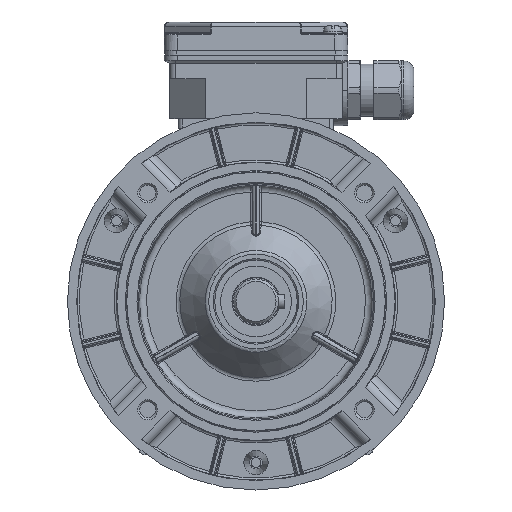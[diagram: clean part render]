
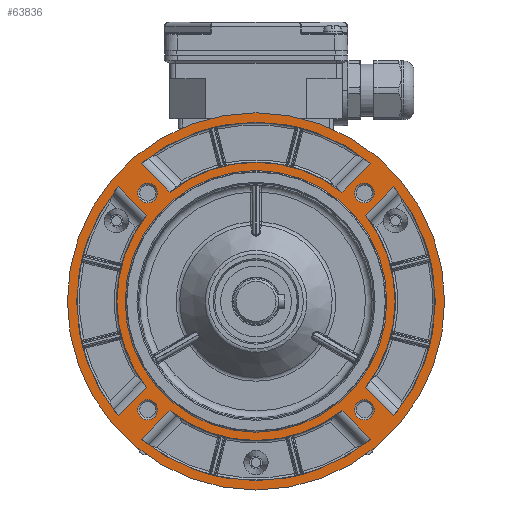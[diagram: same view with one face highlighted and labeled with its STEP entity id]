
A CAD part, left-side view. The second image highlights one B-rep face of the part: STEP entity #63836.
In plain terms, the highlighted planar face has unit normal (-1, 0, 0).
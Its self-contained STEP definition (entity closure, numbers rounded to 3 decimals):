
#5347=LINE('',#95270,#8529);
#5348=LINE('',#95279,#8530);
#5349=LINE('',#95298,#8531);
#5350=LINE('',#95307,#8532);
#5351=LINE('',#95314,#8533);
#5352=LINE('',#95333,#8534);
#5354=LINE('',#95721,#8536);
#5355=LINE('',#95732,#8537);
#8529=VECTOR('',#77063,1000.);
#8530=VECTOR('',#77070,1000.);
#8531=VECTOR('',#77077,1000.);
#8532=VECTOR('',#77084,1000.);
#8533=VECTOR('',#77087,1000.);
#8534=VECTOR('',#77094,1000.);
#8536=VECTOR('',#77164,1000.);
#8537=VECTOR('',#77171,1000.);
#17726=ORIENTED_EDGE('',*,*,#27704,.T.);
#17727=ORIENTED_EDGE('',*,*,#27703,.T.);
#17728=ORIENTED_EDGE('',*,*,#27702,.T.);
#17729=ORIENTED_EDGE('',*,*,#27701,.T.);
#17730=ORIENTED_EDGE('',*,*,#27700,.T.);
#17731=ORIENTED_EDGE('',*,*,#27749,.T.);
#17732=ORIENTED_EDGE('',*,*,#27747,.T.);
#17733=ORIENTED_EDGE('',*,*,#27750,.T.);
#17734=ORIENTED_EDGE('',*,*,#27751,.F.);
#17735=ORIENTED_EDGE('',*,*,#27752,.F.);
#17736=ORIENTED_EDGE('',*,*,#27699,.T.);
#17737=ORIENTED_EDGE('',*,*,#27698,.F.);
#17738=ORIENTED_EDGE('',*,*,#27695,.F.);
#17739=ORIENTED_EDGE('',*,*,#27693,.T.);
#17740=ORIENTED_EDGE('',*,*,#27691,.T.);
#17741=ORIENTED_EDGE('',*,*,#27689,.T.);
#17742=ORIENTED_EDGE('',*,*,#27688,.F.);
#17743=ORIENTED_EDGE('',*,*,#27685,.F.);
#17744=ORIENTED_EDGE('',*,*,#27683,.T.);
#17745=ORIENTED_EDGE('',*,*,#27681,.T.);
#17746=ORIENTED_EDGE('',*,*,#27680,.F.);
#17747=ORIENTED_EDGE('',*,*,#27677,.F.);
#27677=EDGE_CURVE('',#33317,#33318,#36572,.T.);
#27680=EDGE_CURVE('',#33318,#33319,#5347,.T.);
#27681=EDGE_CURVE('',#33320,#33319,#36573,.T.);
#27683=EDGE_CURVE('',#33317,#33320,#5348,.T.);
#27685=EDGE_CURVE('',#33321,#33322,#36574,.T.);
#27688=EDGE_CURVE('',#33322,#33323,#5349,.T.);
#27689=EDGE_CURVE('',#33324,#33323,#36575,.T.);
#27691=EDGE_CURVE('',#33321,#33324,#5350,.T.);
#27693=EDGE_CURVE('',#33326,#33325,#5351,.T.);
#27695=EDGE_CURVE('',#33326,#33327,#36576,.T.);
#27698=EDGE_CURVE('',#33327,#33328,#5352,.T.);
#27699=EDGE_CURVE('',#33325,#33328,#36577,.T.);
#27700=EDGE_CURVE('',#33329,#33329,#36578,.F.);
#27701=EDGE_CURVE('',#33330,#33330,#36579,.F.);
#27702=EDGE_CURVE('',#33331,#33331,#36580,.F.);
#27703=EDGE_CURVE('',#33332,#33332,#36581,.F.);
#27704=EDGE_CURVE('',#33333,#33333,#36582,.F.);
#27747=EDGE_CURVE('',#33355,#33354,#5354,.T.);
#27749=EDGE_CURVE('',#33356,#33356,#36597,.T.);
#27750=EDGE_CURVE('',#33354,#33357,#36598,.T.);
#27751=EDGE_CURVE('',#33358,#33357,#5355,.T.);
#27752=EDGE_CURVE('',#33355,#33358,#36599,.T.);
#33317=VERTEX_POINT('',#95257);
#33318=VERTEX_POINT('',#95259);
#33319=VERTEX_POINT('',#95269);
#33320=VERTEX_POINT('',#95273);
#33321=VERTEX_POINT('',#95285);
#33322=VERTEX_POINT('',#95287);
#33323=VERTEX_POINT('',#95297);
#33324=VERTEX_POINT('',#95301);
#33325=VERTEX_POINT('',#95313);
#33326=VERTEX_POINT('',#95315);
#33327=VERTEX_POINT('',#95322);
#33328=VERTEX_POINT('',#95332);
#33329=VERTEX_POINT('',#95338);
#33330=VERTEX_POINT('',#95341);
#33331=VERTEX_POINT('',#95344);
#33332=VERTEX_POINT('',#95347);
#33333=VERTEX_POINT('',#95350);
#33354=VERTEX_POINT('',#95720);
#33355=VERTEX_POINT('',#95722);
#33356=VERTEX_POINT('',#95729);
#33357=VERTEX_POINT('',#95731);
#33358=VERTEX_POINT('',#95733);
#36572=CIRCLE('',#67656,76.);
#36573=CIRCLE('',#67659,59.);
#36574=CIRCLE('',#67662,76.);
#36575=CIRCLE('',#67665,59.);
#36576=CIRCLE('',#67669,76.);
#36577=CIRCLE('',#67672,59.);
#36578=CIRCLE('',#67674,4.2);
#36579=CIRCLE('',#67676,4.2);
#36580=CIRCLE('',#67678,4.2);
#36581=CIRCLE('',#67680,4.2);
#36582=CIRCLE('',#67682,55.5);
#36597=CIRCLE('',#67706,80.);
#36598=CIRCLE('',#67707,59.);
#36599=CIRCLE('',#67708,76.);
#39187=EDGE_LOOP('',(#17726));
#39188=EDGE_LOOP('',(#17727));
#39189=EDGE_LOOP('',(#17728));
#39190=EDGE_LOOP('',(#17729));
#39191=EDGE_LOOP('',(#17730));
#39192=EDGE_LOOP('',(#17731));
#39193=EDGE_LOOP('',(#17732,#17733,#17734,#17735));
#39194=EDGE_LOOP('',(#17736,#17737,#17738,#17739));
#39195=EDGE_LOOP('',(#17740,#17741,#17742,#17743));
#39196=EDGE_LOOP('',(#17744,#17745,#17746,#17747));
#42366=FACE_BOUND('',#39187,.T.);
#42367=FACE_BOUND('',#39188,.T.);
#42368=FACE_BOUND('',#39189,.T.);
#42369=FACE_BOUND('',#39190,.T.);
#42370=FACE_BOUND('',#39191,.T.);
#42371=FACE_BOUND('',#39192,.T.);
#42372=FACE_BOUND('',#39193,.T.);
#42373=FACE_BOUND('',#39194,.T.);
#42374=FACE_BOUND('',#39195,.T.);
#42375=FACE_BOUND('',#39196,.T.);
#44424=PLANE('',#67705);
#63836=ADVANCED_FACE('',(#42366,#42367,#42368,#42369,#42370,#42371,#42372,
#42373,#42374,#42375),#44424,.T.);
#67656=AXIS2_PLACEMENT_3D('',#95258,#77059,#77060);
#67659=AXIS2_PLACEMENT_3D('',#95272,#77066,#77067);
#67662=AXIS2_PLACEMENT_3D('',#95286,#77073,#77074);
#67665=AXIS2_PLACEMENT_3D('',#95300,#77080,#77081);
#67669=AXIS2_PLACEMENT_3D('',#95321,#77090,#77091);
#67672=AXIS2_PLACEMENT_3D('',#95335,#77097,#77098);
#67674=AXIS2_PLACEMENT_3D('',#95337,#77101,#77102);
#67676=AXIS2_PLACEMENT_3D('',#95340,#77105,#77106);
#67678=AXIS2_PLACEMENT_3D('',#95343,#77109,#77110);
#67680=AXIS2_PLACEMENT_3D('',#95346,#77113,#77114);
#67682=AXIS2_PLACEMENT_3D('',#95349,#77117,#77118);
#67705=AXIS2_PLACEMENT_3D('',#95727,#77165,#77166);
#67706=AXIS2_PLACEMENT_3D('',#95728,#77167,#77168);
#67707=AXIS2_PLACEMENT_3D('',#95730,#77169,#77170);
#67708=AXIS2_PLACEMENT_3D('',#95734,#77172,#77173);
#77059=DIRECTION('',(-1.,0.,0.));
#77060=DIRECTION('',(0.,0.,1.));
#77063=DIRECTION('',(0.,-0.707,0.707));
#77066=DIRECTION('',(-1.,0.,0.));
#77067=DIRECTION('',(0.,0.,1.));
#77070=DIRECTION('',(0.,-0.707,-0.707));
#77073=DIRECTION('',(-1.,0.,0.));
#77074=DIRECTION('',(0.,0.,1.));
#77077=DIRECTION('',(0.,-0.707,-0.707));
#77080=DIRECTION('',(-1.,0.,0.));
#77081=DIRECTION('',(0.,0.,1.));
#77084=DIRECTION('',(0.,0.707,-0.707));
#77087=DIRECTION('',(0.,-0.707,0.707));
#77090=DIRECTION('',(-1.,0.,0.));
#77091=DIRECTION('',(0.,0.,1.));
#77094=DIRECTION('',(0.,0.707,0.707));
#77097=DIRECTION('',(-1.,0.,0.));
#77098=DIRECTION('',(0.,0.,1.));
#77101=DIRECTION('',(-1.,0.,0.));
#77102=DIRECTION('',(0.,-1.,0.));
#77105=DIRECTION('',(-1.,0.,0.));
#77106=DIRECTION('',(0.,-1.,0.));
#77109=DIRECTION('',(-1.,0.,0.));
#77110=DIRECTION('',(0.,-1.,0.));
#77113=DIRECTION('',(-1.,0.,0.));
#77114=DIRECTION('',(0.,-1.,0.));
#77117=DIRECTION('',(-1.,0.,0.));
#77118=DIRECTION('',(0.,-1.,0.));
#77164=DIRECTION('',(0.,0.707,0.707));
#77165=DIRECTION('',(-1.,0.,0.));
#77166=DIRECTION('',(0.,-1.,0.));
#77167=DIRECTION('',(-1.,0.,0.));
#77168=DIRECTION('',(0.,1.,0.));
#77169=DIRECTION('',(-1.,0.,0.));
#77170=DIRECTION('',(0.,0.,1.));
#77171=DIRECTION('',(0.,0.707,-0.707));
#77172=DIRECTION('',(-1.,0.,0.));
#77173=DIRECTION('',(0.,0.,1.));
#95257=CARTESIAN_POINT('',(-44.3,58.461,48.562));
#95258=CARTESIAN_POINT('',(-44.3,0.,0.));
#95259=CARTESIAN_POINT('',(-44.3,58.461,-48.562));
#95269=CARTESIAN_POINT('',(-44.3,46.374,-36.475));
#95270=CARTESIAN_POINT('',(-44.3,70.057,-60.157));
#95272=CARTESIAN_POINT('',(-44.3,0.,0.));
#95273=CARTESIAN_POINT('',(-44.3,46.374,36.475));
#95279=CARTESIAN_POINT('',(-44.3,70.057,60.157));
#95285=CARTESIAN_POINT('',(-44.3,-48.562,58.461));
#95286=CARTESIAN_POINT('',(-44.3,0.,0.));
#95287=CARTESIAN_POINT('',(-44.3,48.562,58.461));
#95297=CARTESIAN_POINT('',(-44.3,36.475,46.374));
#95298=CARTESIAN_POINT('',(-44.3,60.157,70.057));
#95300=CARTESIAN_POINT('',(-44.3,0.,0.));
#95301=CARTESIAN_POINT('',(-44.3,-36.475,46.374));
#95307=CARTESIAN_POINT('',(-44.3,-60.157,70.057));
#95313=CARTESIAN_POINT('',(-44.3,36.475,-46.374));
#95314=CARTESIAN_POINT('',(-44.3,60.157,-70.057));
#95315=CARTESIAN_POINT('',(-44.3,48.562,-58.461));
#95321=CARTESIAN_POINT('',(-44.3,0.,0.));
#95322=CARTESIAN_POINT('',(-44.3,-48.562,-58.461));
#95332=CARTESIAN_POINT('',(-44.3,-36.475,-46.374));
#95333=CARTESIAN_POINT('',(-44.3,-60.157,-70.057));
#95335=CARTESIAN_POINT('',(-44.3,0.,0.));
#95337=CARTESIAN_POINT('',(-44.3,45.962,-45.962));
#95338=CARTESIAN_POINT('',(-44.3,41.762,-45.962));
#95340=CARTESIAN_POINT('',(-44.3,45.962,45.962));
#95341=CARTESIAN_POINT('',(-44.3,41.762,45.962));
#95343=CARTESIAN_POINT('',(-44.3,-45.962,45.962));
#95344=CARTESIAN_POINT('',(-44.3,-50.162,45.962));
#95346=CARTESIAN_POINT('',(-44.3,-45.962,-45.962));
#95347=CARTESIAN_POINT('',(-44.3,-50.162,-45.962));
#95349=CARTESIAN_POINT('',(-44.3,0.,0.));
#95350=CARTESIAN_POINT('',(-44.3,-55.5,0.));
#95720=CARTESIAN_POINT('',(-44.3,-46.374,-36.475));
#95721=CARTESIAN_POINT('',(-44.3,-70.057,-60.157));
#95722=CARTESIAN_POINT('',(-44.3,-58.461,-48.562));
#95727=CARTESIAN_POINT('',(-44.3,0.,0.));
#95728=CARTESIAN_POINT('',(-44.3,0.,0.));
#95729=CARTESIAN_POINT('',(-44.3,80.,0.));
#95730=CARTESIAN_POINT('',(-44.3,0.,0.));
#95731=CARTESIAN_POINT('',(-44.3,-46.374,36.475));
#95732=CARTESIAN_POINT('',(-44.3,-70.057,60.157));
#95733=CARTESIAN_POINT('',(-44.3,-58.461,48.562));
#95734=CARTESIAN_POINT('',(-44.3,0.,0.));
